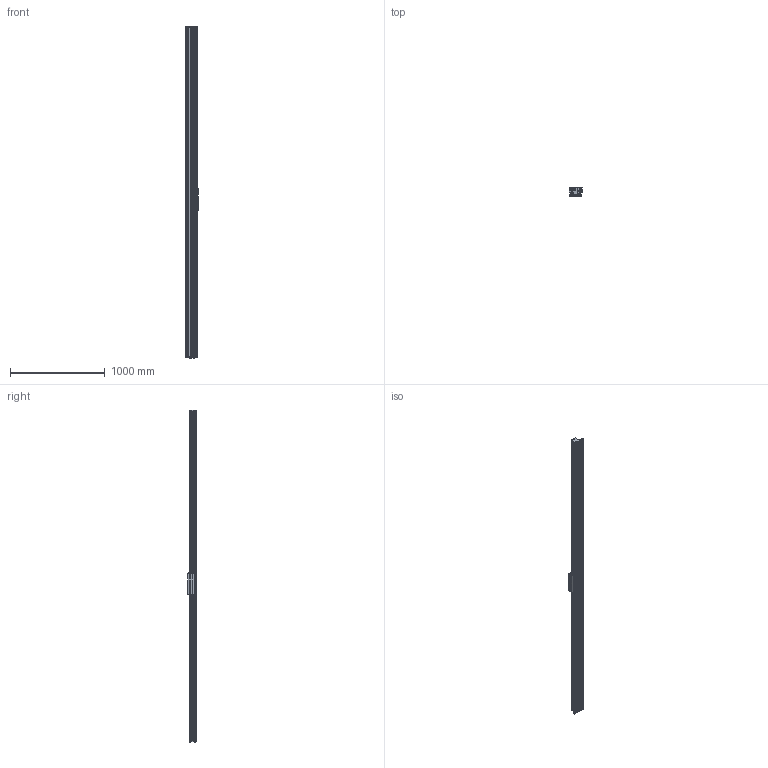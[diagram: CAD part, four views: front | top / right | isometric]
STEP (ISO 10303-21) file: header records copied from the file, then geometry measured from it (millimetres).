
FILE_DESCRIPTION (( 'STEP AP214' ), '1' );
FILE_NAME ('SINADRIVES Linear motor stage MLL20200XS-XX-1-0-ST-00-03492.STEP', '2015-07-13T06:22:03', ( 'Tecnico' ), ( '' ), 'SwSTEP 2.0', 'SolidWorks 2009', '' );
FILE_SCHEMA (( 'AUTOMOTIVE_DESIGN' ));
Length unit declared in the file: millimetre
Products named in the file (7): SINADRIVES PROFILE MLL2XXXX-3476; SINADRIVES CARRIAGE MLL20200XS-1; CARRIAGE MLL20200; Connector power+signal Y-tec 45; SINADRIVES ENDBLOCK MLL2; SINADRIVES ENDBLOCK MLL2-2; SINADRIVES Linear motor stage MLL20200XS-XX-1-0-ST-00-03492
Assembly tree (6 placements, depth 3):
  SINADRIVES Linear motor stage MLL20200XS-XX-1-0-ST-00-03492
    SINADRIVES PROFILE MLL2XXXX-3476
    SINADRIVES ENDBLOCK MLL2
    SINADRIVES CARRIAGE MLL20200XS-1
      Connector power+signal Y-tec 45
      CARRIAGE MLL20200
    SINADRIVES ENDBLOCK MLL2-2
Bounding box: 144.43 x 91 x 3500.8 mm (x, y, z)
Volume: 15178102.2 mm3; surface area: 2619403.4 mm2
Topology: 2 solids, 42 shells, 950 faces, 2640 edges, 1730 vertices
Faces by surface type: plane 445, cylinder 302, bspline 79, cone 70, torus 42, sphere 12
Entity records: 40587 total; most frequent: CARTESIAN_POINT 8656, ORIENTED_EDGE 5024, DIRECTION 4947, EDGE_CURVE 2622, AXIS2_PLACEMENT_3D 1781, VERTEX_POINT 1730, VECTOR 1385, LINE 1385
